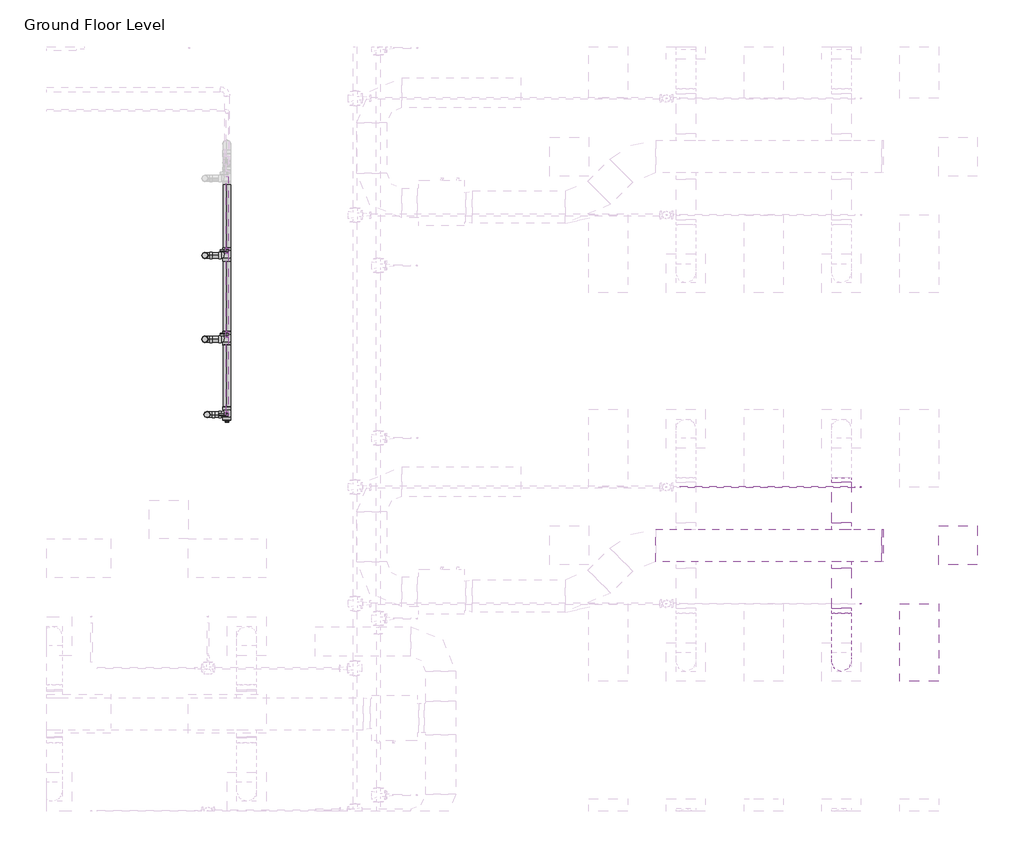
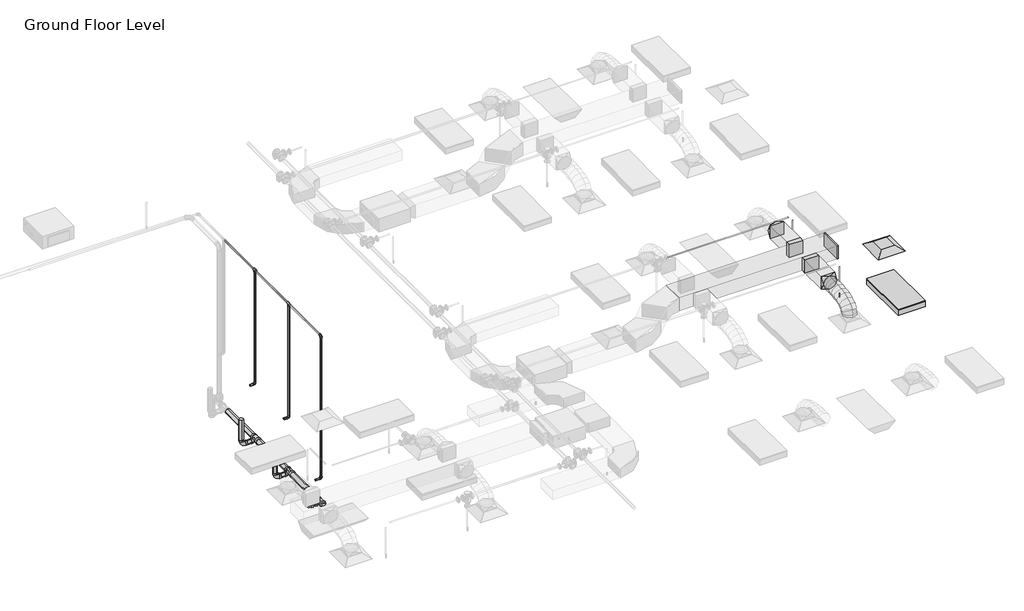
# One storey, part 59 of 66: 21 pipe segments, 13 pipe fittings, 5 duct fittings, 4 duct segments, 2 fire suppression terminals, 1 air terminal, 1 light fixture.
"""IFC4 building model written with IfcOpenShell, lengths in millimetres."""

from ifc_helpers import new_model, si_unit, point, frame, frame_2d, origin, place, context, project, spatial, polyline, circle_curve, ellipse_curve, trimmed, segment, composite_curve, outline, extrude, transform, mapped, element, save
from ifc_brep_helpers import plane_surface, cylinder_surface, advanced_brep
from components import m_return_diffuser_600_x_600_face_300_x_300_connection_ff221211, m_rectangular_endcap_standard_72d4d00d, m_rectangular_takeoff_standard_cb0ccb98, m_rectangular_takeoff_standard_2be5eba1, m_rectangular_to_round_transition_angle_45_degree_641efff0, m_sprinkler_dry_pendent_hosted_15_mm_dry_pendent_9bda8e11, m_troffer_light_parabolic_rectangular1_0600x1200mm_4_lamp_86473d4a, m_bend_pvc_sch_40_dwv_standard_a4b99d37, m_plug_pvc_sch_40_dwv_standard_6c40de1c, m_tee_reducing_sanitary_pvc_sch_40_dwv_standard_b49161a9, standard_517a5a8d, standard_72b35c3b, standard_bfa7e4ca

model = new_model("IFC4")

# Units and contexts
model_context = context("Model", 3, world=origin())
ifc_project = project(units=[si_unit("LENGTHUNIT", "METRE", prefix="MILLI")], contexts=[model_context])

# Site, building, storey
site = spatial("IfcSite", under=ifc_project)
building = spatial("IfcBuilding", under=site)
storey = spatial("IfcBuildingStorey", under=building, Name="Ground Floor Level", Elevation=900.0)

# Air terminal
placement = place(None, origin())
m_return_diffuser_600_x_600_face_300_x_300_connection_shape = m_return_diffuser_600_x_600_face_300_x_300_connection_ff221211(model_context)
element("IfcAirTerminal", 1, ObjectType="M_Return Diffuser : 600 x 600 Face 300 x 300 Connection", at=placement, inside=storey, context=model_context, shape_type="MappedRepresentation", body=[
    mapped(m_return_diffuser_600_x_600_face_300_x_300_connection_shape, transform((14942.7672395, 6735.2153534, 3650.0), x_axis=(1.0, 0.0, 0.0), y_axis=(0.0, 1.0, 0.0), z_axis=(0.0, 0.0, 1.0))),
])

# Duct fittings
m_rectangular_endcap_standard_shape = m_rectangular_endcap_standard_72d4d00d(model_context)
element("IfcDuctFitting", 2, ObjectType="M_Rectangular Endcap : Standard", at=placement, inside=storey, context=model_context, shape_type="MappedRepresentation", body=[
    mapped(m_rectangular_endcap_standard_shape, transform((13766.7301365, 6735.2153534, 4100.0), x_axis=(1.0, 0.0, 0.0), y_axis=(0.0, 1.0, 0.0), z_axis=(0.0, 0.0, 1.0))),
])
m_rectangular_takeoff_standard_shape = m_rectangular_takeoff_standard_cb0ccb98(model_context)
element("IfcDuctFitting", 3, ObjectType="M_Rectangular Takeoff : Standard", at=placement, inside=storey, context=model_context, shape_type="MappedRepresentation", body=[
    mapped(m_rectangular_takeoff_standard_shape, transform((13142.7672395, 6985.2153534, 4100.0), x_axis=(0.0, 1.0, 0.0), y_axis=(1.0, 0.0, 0.0), z_axis=(0.0, 0.0, -1.0))),
])
m_rectangular_takeoff_standard_2_shape = m_rectangular_takeoff_standard_2be5eba1(model_context)
element("IfcDuctFitting", 4, ObjectType="M_Rectangular Takeoff : Standard", at=placement, inside=storey, context=model_context, shape_type="MappedRepresentation", body=[
    mapped(m_rectangular_takeoff_standard_2_shape, transform((13142.7672395, 6485.2153534, 4100.0), x_axis=(0.0, -1.0, 0.0), y_axis=(-1.0, 0.0, 0.0), z_axis=(0.0, 0.0, -1.0))),
])
m_rectangular_to_round_transition_angle_45_degree_shape = m_rectangular_to_round_transition_angle_45_degree_641efff0(model_context)
element("IfcDuctFitting", 5, ObjectType="M_Rectangular to Round Transition - Angle : 45 Degree", at=placement, inside=storey, context=model_context, shape_type="MappedRepresentation", body=[
    mapped(m_rectangular_to_round_transition_angle_45_degree_shape, transform((13142.7672395, 5762.5512847, 4100.0), x_axis=(0.0, -1.0, 0.0), y_axis=(1.0, 0.0, 0.0), z_axis=(0.0, 0.0, 1.0))),
])
element("IfcDuctFitting", 6, ObjectType="M_Rectangular to Round Transition - Angle : 45 Degree", at=placement, inside=storey, context=model_context, shape_type="MappedRepresentation", body=[
    mapped(m_rectangular_to_round_transition_angle_45_degree_shape, transform((13142.7672395, 7707.8794221, 4100.0), x_axis=(0.0, 1.0, 0.0), y_axis=(-1.0, 0.0, 0.0), z_axis=(0.0, 0.0, 1.0))),
])

# Duct segments
element("IfcDuctSegment", 7, ObjectType="Flex - Round", at=placement, inside=storey, context=model_context, shape_type="AdvancedBrep", body=[
    advanced_brep(
    [(13292.7672395, 4935.2153534, 3826.6), (13142.7672395, 4785.2153534, 3826.6), (12992.7672395, 4935.2153534, 3826.6), (13142.7672395, 5085.2153534, 3826.6), (13292.7672395, 4935.2153534, 3857.9377114), (13142.7672395, 4785.2153534, 3883.5809337), (12992.7672395, 4935.2153534, 3857.9377114), (13142.7672395, 5085.2153534, 3832.2944892), (13292.7672395, 4952.2312859, 3906.2505728), (13142.7672395, 4818.493307, 3978.0660967), (12992.7672395, 4952.2312859, 3906.2505728), (13142.7672395, 5085.9692649, 3834.435049), (13292.7672395, 4999.4151663, 3968.7113131), (13142.7672395, 4895.209267, 4079.6206026), (12992.7672395, 4999.4151663, 3968.7113131), (13142.7672395, 5103.6210655, 3857.8020236), (13292.7672395, 5070.9711184, 4016.0700639), (13142.7672395, 5002.0370628, 4150.3237489), (12992.7672395, 5070.9711184, 4016.0700639), (13142.7672395, 5139.9051741, 3881.8163788), (13292.7672395, 5161.1032664, 4050.4146682), (13142.7672395, 5117.5425033, 4194.3367758), (12992.7672395, 5161.1032664, 4050.4146682), (13142.7672395, 5204.6640296, 3906.4925606), (13292.7672395, 5264.0157343, 4073.8329691), (13142.7672395, 5237.4548103, 4221.6234841), (12992.7672395, 5264.0157343, 4073.8329691), (13142.7672395, 5290.5766583, 3926.0424542), (13292.7672395, 5373.912646, 4088.4128097), (13142.7672395, 5358.7617437, 4237.7170733), (12992.7672395, 5373.912646, 4088.4128097), (13142.7672395, 5389.0635483, 3939.1085462), (13292.7672395, 5484.9981256, 4096.242033), (13142.7672395, 5477.4927974, 4246.085151), (12992.7672395, 5484.9981256, 4096.242033), (13142.7672395, 5492.5034538, 3946.398915), (13292.7672395, 5591.4762972, 4099.4084821), (13142.7672395, 5588.7848041, 4249.394754), (12992.7672395, 5591.4762972, 4099.4084821), (13142.7672395, 5594.1677903, 3949.4222102), (13292.7672395, 5687.5512847, 4100.0), (13142.7672395, 5688.4747925, 3950.0028429), (12992.7672395, 5687.5512847, 4100.0), (13142.7672395, 5686.6277768, 4249.9971571)],
    [
        (0, 1, circle_curve(frame((13142.7672395, 4935.2153534, 3826.6), z_axis=(0.0, 0.0, -1.0), x_axis=(1.0, 0.0, 0.0)), 150.0)),
        (1, 2, circle_curve(frame((13142.7672395, 4935.2153534, 3826.6), z_axis=(0.0, 0.0, -1.0), x_axis=(1.0, 0.0, 0.0)), 150.0)),
        (2, 3, circle_curve(frame((13142.7672395, 4935.2153534, 3826.6), z_axis=(0.0, 0.0, -1.0), x_axis=(1.0, 0.0, 0.0)), 150.0)),
        (3, 0, circle_curve(frame((13142.7672395, 4935.2153534, 3826.6), z_axis=(0.0, 0.0, -1.0), x_axis=(1.0, 0.0, 0.0)), 150.0)),
        (0, 4),
        (4, 5, ellipse_curve(frame((13142.7672395, 4935.2153534, 3857.9377114), z_axis=(0.0, -0.16851014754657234, -0.9856999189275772), x_axis=(0.0, 0.9856999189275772, -0.1685101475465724)), 152.176131, 150.0)),
        (5, 1),
        (5, 6, ellipse_curve(frame((13142.7672395, 4935.2153534, 3857.9377114), z_axis=(0.0, -0.16851014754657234, -0.9856999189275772), x_axis=(0.0, 0.9856999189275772, -0.1685101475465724)), 152.176131, 150.0)),
        (6, 2),
        (6, 7, ellipse_curve(frame((13142.7672395, 4935.2153534, 3857.9377114), z_axis=(0.0, -0.16851014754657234, -0.9856999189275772), x_axis=(0.0, 0.9856999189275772, -0.1685101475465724)), 152.176131, 150.0)),
        (7, 3),
        (7, 4, ellipse_curve(frame((13142.7672395, 4935.2153534, 3857.9377114), z_axis=(0.0, -0.16851014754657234, -0.9856999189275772), x_axis=(0.0, 0.9856999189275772, -0.1685101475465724)), 152.176131, 150.0)),
        (4, 8),
        (8, 9, ellipse_curve(frame((13142.7672395, 4952.2312859, 3906.2505728), z_axis=(0.0, -0.4730922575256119, -0.8810128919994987), x_axis=(0.0, 0.8810128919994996, -0.47309225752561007)), 151.8002519, 150.0)),
        (9, 5),
        (9, 10, ellipse_curve(frame((13142.7672395, 4952.2312859, 3906.2505728), z_axis=(0.0, -0.4730922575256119, -0.8810128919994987), x_axis=(0.0, 0.8810128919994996, -0.47309225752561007)), 151.8002519, 150.0)),
        (10, 6),
        (10, 11, ellipse_curve(frame((13142.7672395, 4952.2312859, 3906.2505728), z_axis=(0.0, -0.4730922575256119, -0.8810128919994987), x_axis=(0.0, 0.8810128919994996, -0.47309225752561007)), 151.8002519, 150.0)),
        (11, 7),
        (11, 8, ellipse_curve(frame((13142.7672395, 4952.2312859, 3906.2505728), z_axis=(0.0, -0.4730922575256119, -0.8810128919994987), x_axis=(0.0, 0.8810128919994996, -0.47309225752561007)), 151.8002519, 150.0)),
        (8, 12),
        (12, 13, ellipse_curve(frame((13142.7672395, 4999.4151663, 3968.7113131), z_axis=(0.0, -0.7287877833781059, -0.6847396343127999), x_axis=(0.0, 0.6847396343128, -0.7287877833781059)), 152.1832446, 150.0)),
        (13, 9),
        (13, 14, ellipse_curve(frame((13142.7672395, 4999.4151663, 3968.7113131), z_axis=(0.0, -0.7287877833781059, -0.6847396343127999), x_axis=(0.0, 0.6847396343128, -0.7287877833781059)), 152.1832446, 150.0)),
        (14, 10),
        (14, 15, ellipse_curve(frame((13142.7672395, 4999.4151663, 3968.7113131), z_axis=(0.0, -0.7287877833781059, -0.6847396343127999), x_axis=(0.0, 0.6847396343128, -0.7287877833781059)), 152.1832446, 150.0)),
        (15, 11),
        (15, 12, ellipse_curve(frame((13142.7672395, 4999.4151663, 3968.7113131), z_axis=(0.0, -0.7287877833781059, -0.6847396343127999), x_axis=(0.0, 0.6847396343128, -0.7287877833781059)), 152.1832446, 150.0)),
        (12, 16),
        (16, 17, ellipse_curve(frame((13142.7672395, 5070.9711184, 4016.0700639), z_axis=(0.0, -0.8895859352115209, -0.4567678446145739), x_axis=(0.0, 0.4567678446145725, -0.8895859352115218)), 150.91705, 150.0)),
        (17, 13),
        (17, 18, ellipse_curve(frame((13142.7672395, 5070.9711184, 4016.0700639), z_axis=(0.0, -0.8895859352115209, -0.4567678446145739), x_axis=(0.0, 0.4567678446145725, -0.8895859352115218)), 150.91705, 150.0)),
        (18, 14),
        (18, 19, ellipse_curve(frame((13142.7672395, 5070.9711184, 4016.0700639), z_axis=(0.0, -0.8895859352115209, -0.4567678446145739), x_axis=(0.0, 0.4567678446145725, -0.8895859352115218)), 150.91705, 150.0)),
        (19, 15),
        (19, 16, ellipse_curve(frame((13142.7672395, 5070.9711184, 4016.0700639), z_axis=(0.0, -0.8895859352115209, -0.4567678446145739), x_axis=(0.0, 0.4567678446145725, -0.8895859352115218)), 150.91705, 150.0)),
        (16, 20),
        (20, 21, ellipse_curve(frame((13142.7672395, 5161.1032664, 4050.4146682), z_axis=(0.0, -0.9571203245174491, -0.28969067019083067), x_axis=(0.0, 0.28969067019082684, -0.9571203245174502)), 150.369921, 150.0)),
        (21, 17),
        (21, 22, ellipse_curve(frame((13142.7672395, 5161.1032664, 4050.4146682), z_axis=(0.0, -0.9571203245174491, -0.28969067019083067), x_axis=(0.0, 0.28969067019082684, -0.9571203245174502)), 150.369921, 150.0)),
        (22, 18),
        (22, 23, ellipse_curve(frame((13142.7672395, 5161.1032664, 4050.4146682), z_axis=(0.0, -0.9571203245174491, -0.28969067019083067), x_axis=(0.0, 0.28969067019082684, -0.9571203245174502)), 150.369921, 150.0)),
        (23, 19),
        (23, 20, ellipse_curve(frame((13142.7672395, 5161.1032664, 4050.4146682), z_axis=(0.0, -0.9571203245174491, -0.28969067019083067), x_axis=(0.0, 0.28969067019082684, -0.9571203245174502)), 150.369921, 150.0)),
        (20, 24),
        (24, 25, ellipse_curve(frame((13142.7672395, 5264.0157343, 4073.8329691), z_axis=(0.0, -0.9842313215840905, -0.17688613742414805), x_axis=(0.0, 0.17688613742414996, -0.9842313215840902)), 150.1583131, 150.0)),
        (25, 21),
        (25, 26, ellipse_curve(frame((13142.7672395, 5264.0157343, 4073.8329691), z_axis=(0.0, -0.9842313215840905, -0.17688613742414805), x_axis=(0.0, 0.17688613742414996, -0.9842313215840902)), 150.1583131, 150.0)),
        (26, 22),
        (26, 27, ellipse_curve(frame((13142.7672395, 5264.0157343, 4073.8329691), z_axis=(0.0, -0.9842313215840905, -0.17688613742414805), x_axis=(0.0, 0.17688613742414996, -0.9842313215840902)), 150.1583131, 150.0)),
        (27, 23),
        (27, 24, ellipse_curve(frame((13142.7672395, 5264.0157343, 4073.8329691), z_axis=(0.0, -0.9842313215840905, -0.17688613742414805), x_axis=(0.0, 0.17688613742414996, -0.9842313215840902)), 150.1583131, 150.0)),
        (24, 28),
        (28, 29, ellipse_curve(frame((13142.7672395, 5373.912646, 4088.4128097), z_axis=(0.0, -0.9948906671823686, -0.10095821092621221), x_axis=(0.0, 0.10095821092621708, -0.9948906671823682)), 150.0710264, 150.0)),
        (29, 25),
        (29, 30, ellipse_curve(frame((13142.7672395, 5373.912646, 4088.4128097), z_axis=(0.0, -0.9948906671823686, -0.10095821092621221), x_axis=(0.0, 0.10095821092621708, -0.9948906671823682)), 150.0710264, 150.0)),
        (30, 26),
        (30, 31, ellipse_curve(frame((13142.7672395, 5373.912646, 4088.4128097), z_axis=(0.0, -0.9948906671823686, -0.10095821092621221), x_axis=(0.0, 0.10095821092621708, -0.9948906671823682)), 150.0710264, 150.0)),
        (31, 27),
        (31, 28, ellipse_curve(frame((13142.7672395, 5373.912646, 4088.4128097), z_axis=(0.0, -0.9948906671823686, -0.10095821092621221), x_axis=(0.0, 0.10095821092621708, -0.9948906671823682)), 150.0710264, 150.0)),
        (28, 32),
        (32, 33, ellipse_curve(frame((13142.7672395, 5484.9981256, 4096.242033), z_axis=(0.0, -0.9987479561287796, -0.05002519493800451), x_axis=(0.0, 0.050025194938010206, -0.9987479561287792)), 150.0309634, 150.0)),
        (33, 29),
        (33, 34, ellipse_curve(frame((13142.7672395, 5484.9981256, 4096.242033), z_axis=(0.0, -0.9987479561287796, -0.05002519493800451), x_axis=(0.0, 0.050025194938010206, -0.9987479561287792)), 150.0309634, 150.0)),
        (34, 30),
        (34, 35, ellipse_curve(frame((13142.7672395, 5484.9981256, 4096.242033), z_axis=(0.0, -0.9987479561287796, -0.05002519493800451), x_axis=(0.0, 0.050025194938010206, -0.9987479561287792)), 150.0309634, 150.0)),
        (35, 31),
        (35, 32, ellipse_curve(frame((13142.7672395, 5484.9981256, 4096.242033), z_axis=(0.0, -0.9987479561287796, -0.05002519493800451), x_axis=(0.0, 0.050025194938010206, -0.9987479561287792)), 150.0309634, 150.0)),
        (32, 36),
        (36, 37, ellipse_curve(frame((13142.7672395, 5591.4762972, 4099.4084821), z_axis=(0.0, -0.9998390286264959, -0.017942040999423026), x_axis=(0.0, 0.01794204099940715, -0.9998390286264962)), 150.0104193, 150.0)),
        (37, 33),
        (37, 38, ellipse_curve(frame((13142.7672395, 5591.4762972, 4099.4084821), z_axis=(0.0, -0.9998390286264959, -0.017942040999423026), x_axis=(0.0, 0.01794204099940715, -0.9998390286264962)), 150.0104193, 150.0)),
        (38, 34),
        (38, 39, ellipse_curve(frame((13142.7672395, 5591.4762972, 4099.4084821), z_axis=(0.0, -0.9998390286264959, -0.017942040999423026), x_axis=(0.0, 0.01794204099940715, -0.9998390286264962)), 150.0104193, 150.0)),
        (39, 35),
        (39, 36, ellipse_curve(frame((13142.7672395, 5591.4762972, 4099.4084821), z_axis=(0.0, -0.9998390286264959, -0.017942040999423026), x_axis=(0.0, 0.01794204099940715, -0.9998390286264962)), 150.0104193, 150.0)),
        (40, 41, circle_curve(frame((13142.7672395, 5687.5512847, 4100.0), z_axis=(0.0, 0.9999810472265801, 0.006156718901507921), x_axis=(1.0, 0.0, 0.0)), 150.0)),
        (41, 42, circle_curve(frame((13142.7672395, 5687.5512847, 4100.0), z_axis=(0.0, 0.9999810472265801, 0.006156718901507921), x_axis=(1.0, 0.0, 0.0)), 150.0)),
        (42, 43, circle_curve(frame((13142.7672395, 5687.5512847, 4100.0), z_axis=(0.0, 0.9999810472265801, 0.006156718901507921), x_axis=(1.0, 0.0, 0.0)), 150.0)),
        (43, 40, circle_curve(frame((13142.7672395, 5687.5512847, 4100.0), z_axis=(0.0, 0.9999810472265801, 0.006156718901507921), x_axis=(1.0, 0.0, 0.0)), 150.0)),
        (36, 40),
        (43, 37),
        (42, 38),
        (41, 39),
    ],
    [
        plane_surface(frame((13142.7672395, 4785.2153534, 3826.6), z_axis=(0.0, 0.0, -1.0), x_axis=(1.0, 0.0, 0.0))),
        cylinder_surface(frame((13142.7672395, 4935.2153534, 3826.6), z_axis=(0.0, 0.0, -1.0), x_axis=(1.0, 0.0, 0.0)), 150.0),
        cylinder_surface(frame((13142.7672395, 4935.2153534, 3857.9377114), z_axis=(0.0, -0.3322008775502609, -0.9432086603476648), x_axis=(1.0, 0.0, 0.0)), 150.0),
        cylinder_surface(frame((13142.7672395, 4952.2312859, 3906.2505728), z_axis=(0.0, -0.6027625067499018, -0.7979206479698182), x_axis=(1.0, 0.0, 0.0)), 150.0),
        cylinder_surface(frame((13142.7672395, 4999.4151663, 3968.7113131), z_axis=(0.0, -0.8339024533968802, -0.5519118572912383), x_axis=(1.0, 0.0, 0.0)), 150.0),
        cylinder_surface(frame((13142.7672395, 5070.9711184, 4016.0700639), z_axis=(0.0, -0.934458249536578, -0.35607271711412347), x_axis=(1.0, 0.0, 0.0)), 150.0),
        cylinder_surface(frame((13142.7672395, 5161.1032664, 4050.4146682), z_axis=(0.0, -0.9750732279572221, -0.22188330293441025), x_axis=(1.0, 0.0, 0.0)), 150.0),
        cylinder_surface(frame((13142.7672395, 5264.0157343, 4073.8329691), z_axis=(0.0, -0.9913140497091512, -0.1315159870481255), x_axis=(1.0, 0.0, 0.0)), 150.0),
        cylinder_surface(frame((13142.7672395, 5373.912646, 4088.4128097), z_axis=(0.0, -0.9975255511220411, -0.07030487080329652), x_axis=(1.0, 0.0, 0.0)), 150.0),
        cylinder_surface(frame((13142.7672395, 5484.9981256, 4096.242033), z_axis=(0.0, -0.9995581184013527, -0.02972487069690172), x_axis=(1.0, 0.0, 0.0)), 150.0),
        plane_surface(frame((13142.7672395, 5686.6277768, 4249.9971571), z_axis=(0.0, 0.9999810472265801, 0.0061567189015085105), x_axis=(1.0, 0.0, 0.0))),
        cylinder_surface(frame((13142.7672395, 5591.4762972, 4099.4084821), z_axis=(0.0, -0.9999810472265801, -0.006156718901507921), x_axis=(1.0, 0.0, 0.0)), 150.0),
    ],
    [
        (0, [[1, 2, 3, 4]]),
        (1, [[-1, 5, 6, 7]]),
        (1, [[-2, -7, 8, 9]]),
        (1, [[-3, -9, 10, 11]]),
        (1, [[-4, -11, 12, -5]]),
        (2, [[-6, 13, 14, 15]]),
        (2, [[-8, -15, 16, 17]]),
        (2, [[-10, -17, 18, 19]]),
        (2, [[-12, -19, 20, -13]]),
        (3, [[-14, 21, 22, 23]]),
        (3, [[-16, -23, 24, 25]]),
        (3, [[-18, -25, 26, 27]]),
        (3, [[-20, -27, 28, -21]]),
        (4, [[-22, 29, 30, 31]]),
        (4, [[-24, -31, 32, 33]]),
        (4, [[-26, -33, 34, 35]]),
        (4, [[-28, -35, 36, -29]]),
        (5, [[-30, 37, 38, 39]]),
        (5, [[-32, -39, 40, 41]]),
        (5, [[-34, -41, 42, 43]]),
        (5, [[-36, -43, 44, -37]]),
        (6, [[-38, 45, 46, 47]]),
        (6, [[-40, -47, 48, 49]]),
        (6, [[-42, -49, 50, 51]]),
        (6, [[-44, -51, 52, -45]]),
        (7, [[-46, 53, 54, 55]]),
        (7, [[-48, -55, 56, 57]]),
        (7, [[-50, -57, 58, 59]]),
        (7, [[-52, -59, 60, -53]]),
        (8, [[-54, 61, 62, 63]]),
        (8, [[-56, -63, 64, 65]]),
        (8, [[-58, -65, 66, 67]]),
        (8, [[-60, -67, 68, -61]]),
        (9, [[-62, 69, 70, 71]]),
        (9, [[-64, -71, 72, 73]]),
        (9, [[-66, -73, 74, 75]]),
        (9, [[-68, -75, 76, -69]]),
        (10, [[77, 78, 79, 80]]),
        (11, [[-70, 81, -80, 82]]),
        (11, [[-72, -82, -79, 83]]),
        (11, [[-74, -83, -78, 84]]),
        (11, [[-76, -84, -77, -81]]),
    ],
),
])
element("IfcDuctSegment", 8, ObjectType="Radius Elbows / Taps", at=placement, inside=storey, context=model_context, shape_type="SweptSolid", body=[
    extrude(outline(polyline([(10277.3903083, 6485.2153534), (10277.3903083, 6985.2153534), (13766.7301365, 6985.2153534), (13766.7301365, 6485.2153534), (10277.3903083, 6485.2153534)])), frame((0.0, 0.0, 3950.0), z_axis=(0.0, 0.0, 1.0), x_axis=(1.0, 0.0, 0.0)), (0.0, 0.0, 1.0), 300.0),
])
element("IfcDuctSegment", 9, ObjectType="Radius Elbows / Taps", at=placement, inside=storey, context=model_context, shape_type="SweptSolid", body=[
    extrude(outline(polyline([(13292.7672395, 7086.8153534), (12992.7672395, 7086.8153534), (12992.7672395, 7707.8794221), (13292.7672395, 7707.8794221), (13292.7672395, 7086.8153534)])), frame((0.0, 0.0, 3950.0), z_axis=(0.0, 0.0, 1.0), x_axis=(1.0, 0.0, 0.0)), (0.0, 0.0, 1.0), 300.0),
])
element("IfcDuctSegment", 10, ObjectType="Radius Elbows / Taps", at=placement, inside=storey, context=model_context, shape_type="SweptSolid", body=[
    extrude(outline(polyline([(12992.7672395, 6383.6153534), (13292.7672395, 6383.6153534), (13292.7672395, 5762.5512847), (12992.7672395, 5762.5512847), (12992.7672395, 6383.6153534)])), frame((0.0, 0.0, 3950.0), z_axis=(0.0, 0.0, 1.0), x_axis=(1.0, 0.0, 0.0)), (0.0, 0.0, 1.0), 300.0),
])

# Fire suppression terminals
m_sprinkler_dry_pendent_hosted_15_mm_dry_pendent_shape = m_sprinkler_dry_pendent_hosted_15_mm_dry_pendent_9bda8e11(model_context)
element("IfcFireSuppressionTerminal", 11, ObjectType="M_Sprinkler - Dry - Pendent - Hosted : 15 mm Dry Pendent", at=placement, inside=storey, context=model_context, shape_type="MappedRepresentation", body=[
    mapped(m_sprinkler_dry_pendent_hosted_15_mm_dry_pendent_shape, transform((13442.7672395, 7635.2153534, 3650.0), x_axis=(1.0, 0.0, 0.0), y_axis=(0.0, -1.0, 0.0), z_axis=(0.0, 0.0, -1.0))),
])
element("IfcFireSuppressionTerminal", 12, ObjectType="M_Sprinkler - Dry - Pendent - Hosted : 15 mm Dry Pendent", at=placement, inside=storey, context=model_context, shape_type="MappedRepresentation", body=[
    mapped(m_sprinkler_dry_pendent_hosted_15_mm_dry_pendent_shape, transform((13442.7672395, 5835.2153534, 3650.0), x_axis=(1.0, 0.0, 0.0), y_axis=(0.0, -1.0, 0.0), z_axis=(0.0, 0.0, -1.0))),
])

# Light fixture
m_troffer_light_parabolic_rectangular1_0600x1200mm_4_lamp_shape = m_troffer_light_parabolic_rectangular1_0600x1200mm_4_lamp_86473d4a(model_context)
element("IfcLightFixture", 13, ObjectType="M_Troffer Light - Parabolic Rectangular1 : 0600x1200mm(4 Lamp) - 277V 2", at=placement, inside=storey, context=model_context, shape_type="MappedRepresentation", body=[
    mapped(m_troffer_light_parabolic_rectangular1_0600x1200mm_4_lamp_shape, transform((14283.3013074, 5253.9188549, 3650.0), x_axis=(0.0, 1.0, 0.0), y_axis=(-1.0, 0.0, 0.0), z_axis=(0.0, 0.0, 1.0))),
])

# Pipe fittings
m_bend_pvc_sch_40_dwv_standard_shape = m_bend_pvc_sch_40_dwv_standard_a4b99d37(model_context)
element("IfcPipeFitting", 14, ObjectType="M_Bend - PVC - Sch 40 - DWV : Standard", at=placement, inside=storey, context=model_context, shape_type="MappedRepresentation", body=[
    mapped(m_bend_pvc_sch_40_dwv_standard_shape, transform((3351.3697667, 8754.4159333, 426.6255336), x_axis=(0.0, 0.0, -1.0), y_axis=(1.0, 0.0, 0.0), z_axis=(0.0, -1.0, 0.0))),
])
element("IfcPipeFitting", 15, ObjectType="M_Bend - PVC - Sch 40 - DWV : Standard", at=placement, inside=storey, context=model_context, shape_type="MappedRepresentation", body=[
    mapped(m_bend_pvc_sch_40_dwv_standard_shape, transform((3319.2245422, 9917.654001, 414.9931529), x_axis=(0.0, 0.0, -1.0), y_axis=(1.0, 0.0, 0.0), z_axis=(0.0, -1.0, 0.0))),
])
element("IfcPipeFitting", 16, ObjectType="M_Bend - PVC - Sch 40 - DWV : Standard", at=placement, inside=storey, context=model_context, shape_type="MappedRepresentation", body=[
    mapped(m_bend_pvc_sch_40_dwv_standard_shape, transform((3319.2245422, 11211.6258776, 402.0534342), x_axis=(0.0, 0.0, -1.0), y_axis=(1.0, 0.0, 0.0), z_axis=(0.0, -1.0, 0.0))),
])
m_plug_pvc_sch_40_dwv_standard_shape = m_plug_pvc_sch_40_dwv_standard_6c40de1c(model_context)
element("IfcPipeFitting", 17, ObjectType="M_Plug - PVC - Sch 40 - DWV : Standard", at=placement, inside=storey, context=model_context, shape_type="MappedRepresentation", body=[
    mapped(m_plug_pvc_sch_40_dwv_standard_shape, transform((3657.4922763, 8665.519878, 427.4644942), x_axis=(0.0, -0.9999500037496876, 0.009999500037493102), y_axis=(1.0, 0.0, 0.0), z_axis=(0.0, 0.009999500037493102, 0.9999500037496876))),
])
m_tee_reducing_sanitary_pvc_sch_40_dwv_standard_shape = m_tee_reducing_sanitary_pvc_sch_40_dwv_standard_b49161a9(model_context)
element("IfcPipeFitting", 18, ObjectType="M_Tee Reducing Sanitary - PVC - Sch 40 - DWV : Standard", at=placement, inside=storey, context=model_context, shape_type="MappedRepresentation", body=[
    mapped(m_tee_reducing_sanitary_pvc_sch_40_dwv_standard_shape, transform((3657.4922763, 8754.4154334, 426.5755386), x_axis=(0.0, -0.9999500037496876, 0.009999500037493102), y_axis=(1.0, 0.0, 0.0), z_axis=(0.0, 0.009999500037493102, 0.9999500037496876))),
])
element("IfcPipeFitting", 19, ObjectType="M_Tee Reducing Sanitary - PVC - Sch 40 - DWV : Standard", at=placement, inside=storey, context=model_context, shape_type="MappedRepresentation", body=[
    mapped(m_tee_reducing_sanitary_pvc_sch_40_dwv_standard_shape, transform((3657.4922763, 9917.6535011, 414.9431579), x_axis=(0.0, -0.9999500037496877, 0.009999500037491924), y_axis=(1.0000000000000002, 0.0, 0.0), z_axis=(0.0, 0.009999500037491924, 0.9999500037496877))),
])
element("IfcPipeFitting", 20, ObjectType="M_Tee Reducing Sanitary - PVC - Sch 40 - DWV : Standard", at=placement, inside=storey, context=model_context, shape_type="MappedRepresentation", body=[
    mapped(m_tee_reducing_sanitary_pvc_sch_40_dwv_standard_shape, transform((3657.4922763, 11211.6253777, 402.0034392), x_axis=(0.0, -0.9999500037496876, 0.00999950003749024), y_axis=(1.0, 0.0, 0.0), z_axis=(0.0, 0.00999950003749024, 0.9999500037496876))),
])
standard_shape = standard_517a5a8d(model_context)
element("IfcPipeFitting", 21, ObjectType="M_Elbow - CPVC - Sch 40 : Standard", at=placement, inside=storey, context=model_context, shape_type="MappedRepresentation", body=[
    mapped(standard_shape, transform((3662.4674395, 8754.4154334, 4315.0), x_axis=(0.0, -1.0, 0.0), y_axis=(0.0, 0.0, -1.0), z_axis=(1.0, 0.0, 0.0))),
])
element("IfcPipeFitting", 22, ObjectType="M_Elbow - CPVC - Sch 40 : Standard", at=placement, inside=storey, context=model_context, shape_type="MappedRepresentation", body=[
    mapped(standard_shape, transform((3662.4674395, 9991.0922673, 1655.0), x_axis=(0.0, 0.0, -1.0), y_axis=(-1.0, 0.0, 0.0), z_axis=(0.0, 1.0, 0.0))),
])
element("IfcPipeFitting", 23, ObjectType="M_Elbow - CPVC - Sch 40 : Standard", at=placement, inside=storey, context=model_context, shape_type="MappedRepresentation", body=[
    mapped(standard_shape, transform((3662.4674395, 11285.0641439, 1655.0), x_axis=(0.0, 0.0, -1.0), y_axis=(-1.0, 0.0, 0.0), z_axis=(0.0, 1.0, 0.0))),
])
standard_2_shape = standard_72b35c3b(model_context)
element("IfcPipeFitting", 24, ObjectType="M_Tee - CPVC - Sch 40 : Standard", at=placement, inside=storey, context=model_context, shape_type="MappedRepresentation", body=[
    mapped(standard_2_shape, transform((3662.4674395, 9991.0922673, 4315.0), x_axis=(0.0, -1.0, 0.0), y_axis=(0.0, 0.0, 1.0), z_axis=(-1.0, 0.0, 0.0))),
])
element("IfcPipeFitting", 25, ObjectType="M_Tee - CPVC - Sch 40 : Standard", at=placement, inside=storey, context=model_context, shape_type="MappedRepresentation", body=[
    mapped(standard_2_shape, transform((3662.4674395, 11285.0641439, 4315.0), x_axis=(0.0, -1.0, 0.0), y_axis=(0.0, 0.0, 1.0), z_axis=(-1.0, 0.0, 0.0))),
])
standard_3_shape = standard_bfa7e4ca(model_context)
element("IfcPipeFitting", 26, ObjectType="M_Elbow - CPVC - Sch 40 : Standard", at=placement, inside=storey, context=model_context, shape_type="MappedRepresentation", body=[
    mapped(standard_3_shape, transform((3662.4674395, 8754.4154334, 983.5), x_axis=(0.0, 0.0, -1.0), y_axis=(-1.0, 0.0, 0.0), z_axis=(0.0, 1.0, 0.0))),
])

# Pipe segments
element("IfcPipeSegment", 27, ObjectType="CPVC", at=placement, inside=storey, context=model_context, shape_type="SweptSolid", body=[
    extrude(outline(composite_curve([segment(trimmed(circle_curve(frame_2d((8754.4154334, 983.4999927)), 16.7005), [point((8771.1159334, 983.4999927))], [point((8754.4154334, 966.7994927))], False, "CARTESIAN"), True, "CONTINUOUS"), segment(trimmed(circle_curve(frame_2d((8754.4154334, 983.4999927)), 16.7005), [point((8754.4154334, 966.7994927))], [point((8737.7149334, 983.4999927))], False, "CARTESIAN"), True, "CONTINUOUS"), segment(trimmed(circle_curve(frame_2d((8754.4154334, 983.4999927)), 16.7005), [point((8737.7149334, 983.4999927))], [point((8754.4154334, 1000.2004927))], False, "CARTESIAN"), True, "CONTINUOUS"), segment(trimmed(circle_curve(frame_2d((8754.4154334, 983.4999927)), 16.7005), [point((8754.4154334, 1000.2004927))], [point((8771.1159334, 983.4999927))], False, "CARTESIAN"), True, "CONTINUOUS")], self_intersect=False)), frame((3537.5384422, 0.0, 0.0), z_axis=(1.0, 0.0, 0.0), x_axis=(0.0, 1.0, 0.0)), (0.0, 0.0, 1.0), 81.6664508),
])
element("IfcPipeSegment", 28, ObjectType="CPVC", at=placement, inside=storey, context=model_context, shape_type="SweptSolid", body=[
    extrude(outline(composite_curve([segment(trimmed(circle_curve(frame_2d((3662.4674395, 8754.4154334)), 16.7005), [point((3679.1679395, 8754.4154334))], [point((3662.4674395, 8737.7149334))], False, "CARTESIAN"), True, "CONTINUOUS"), segment(trimmed(circle_curve(frame_2d((3662.4674395, 8754.4154334)), 16.7005), [point((3662.4674395, 8737.7149334))], [point((3645.7669395, 8754.4154334))], False, "CARTESIAN"), True, "CONTINUOUS"), segment(trimmed(circle_curve(frame_2d((3662.4674395, 8754.4154334)), 16.7005), [point((3645.7669395, 8754.4154334))], [point((3662.4674395, 8771.1159334))], False, "CARTESIAN"), True, "CONTINUOUS"), segment(trimmed(circle_curve(frame_2d((3662.4674395, 8754.4154334)), 16.7005), [point((3662.4674395, 8771.1159334))], [point((3679.1679395, 8754.4154334))], False, "CARTESIAN"), True, "CONTINUOUS")], self_intersect=False)), frame((0.0, 0.0, 1026.7625464), z_axis=(0.0, 0.0, 1.0), x_axis=(1.0, 0.0, 0.0)), (0.0, 0.0, 1.0), 3244.9749036),
])
element("IfcPipeSegment", 29, ObjectType="CPVC", at=placement, inside=storey, context=model_context, shape_type="SweptSolid", body=[
    extrude(outline(composite_curve([segment(trimmed(circle_curve(frame_2d((4315.0, 3662.4674395)), 16.7005), [point((4315.0, 3645.7669395))], [point((4298.2995, 3662.4674395))], False, "CARTESIAN"), True, "CONTINUOUS"), segment(trimmed(circle_curve(frame_2d((4315.0, 3662.4674395)), 16.7005), [point((4298.2995, 3662.4674395))], [point((4315.0, 3679.1679395))], False, "CARTESIAN"), True, "CONTINUOUS"), segment(trimmed(circle_curve(frame_2d((4315.0, 3662.4674395)), 16.7005), [point((4315.0, 3679.1679395))], [point((4331.7005, 3662.4674395))], False, "CARTESIAN"), True, "CONTINUOUS"), segment(trimmed(circle_curve(frame_2d((4315.0, 3662.4674395)), 16.7005), [point((4331.7005, 3662.4674395))], [point((4315.0, 3645.7669395))], False, "CARTESIAN"), True, "CONTINUOUS")], self_intersect=False)), frame((0.0, 8797.6779834, 0.0), z_axis=(0.0, 1.0, 0.0), x_axis=(0.0, 0.0, 1.0)), (0.0, 0.0, 1.0), 1153.7140839),
])
element("IfcPipeSegment", 30, ObjectType="CPVC", at=placement, inside=storey, context=model_context, shape_type="SweptSolid", body=[
    extrude(outline(composite_curve([segment(trimmed(circle_curve(frame_2d((9991.0922673, 1655.0)), 16.7005), [point((10007.7927673, 1655.0))], [point((9991.0922673, 1638.2995))], False, "CARTESIAN"), True, "CONTINUOUS"), segment(trimmed(circle_curve(frame_2d((9991.0922673, 1655.0)), 16.7005), [point((9991.0922673, 1638.2995))], [point((9974.3917673, 1655.0))], False, "CARTESIAN"), True, "CONTINUOUS"), segment(trimmed(circle_curve(frame_2d((9991.0922673, 1655.0)), 16.7005), [point((9974.3917673, 1655.0))], [point((9991.0922673, 1671.7005))], False, "CARTESIAN"), True, "CONTINUOUS"), segment(trimmed(circle_curve(frame_2d((9991.0922673, 1655.0)), 16.7005), [point((9991.0922673, 1671.7005))], [point((10007.7927673, 1655.0))], False, "CARTESIAN"), True, "CONTINUOUS")], self_intersect=False)), frame((3552.7672395, 0.0, 0.0), z_axis=(1.0, 0.0, 0.0), x_axis=(0.0, 1.0, 0.0)), (0.0, 0.0, 1.0), 66.43765),
])
element("IfcPipeSegment", 31, ObjectType="CPVC", at=placement, inside=storey, context=model_context, shape_type="SweptSolid", body=[
    extrude(outline(composite_curve([segment(trimmed(circle_curve(frame_2d((3662.4674395, 9991.0922673)), 16.7005), [point((3679.1679395, 9991.0922673))], [point((3662.4674395, 9974.3917673))], False, "CARTESIAN"), True, "CONTINUOUS"), segment(trimmed(circle_curve(frame_2d((3662.4674395, 9991.0922673)), 16.7005), [point((3662.4674395, 9974.3917673))], [point((3645.7669395, 9991.0922673))], False, "CARTESIAN"), True, "CONTINUOUS"), segment(trimmed(circle_curve(frame_2d((3662.4674395, 9991.0922673)), 16.7005), [point((3645.7669395, 9991.0922673))], [point((3662.4674395, 10007.7927673))], False, "CARTESIAN"), True, "CONTINUOUS"), segment(trimmed(circle_curve(frame_2d((3662.4674395, 9991.0922673)), 16.7005), [point((3662.4674395, 10007.7927673))], [point((3679.1679395, 9991.0922673))], False, "CARTESIAN"), True, "CONTINUOUS")], self_intersect=False)), frame((0.0, 0.0, 1698.26255), z_axis=(0.0, 0.0, 1.0), x_axis=(1.0, 0.0, 0.0)), (0.0, 0.0, 1.0), 2577.03725),
])
element("IfcPipeSegment", 32, ObjectType="CPVC", at=placement, inside=storey, context=model_context, shape_type="SweptSolid", body=[
    extrude(outline(composite_curve([segment(trimmed(circle_curve(frame_2d((4315.0, 3662.4674395)), 16.7005), [point((4315.0, 3645.7669395))], [point((4298.2995, 3662.4674395))], False, "CARTESIAN"), True, "CONTINUOUS"), segment(trimmed(circle_curve(frame_2d((4315.0, 3662.4674395)), 16.7005), [point((4298.2995, 3662.4674395))], [point((4315.0, 3679.1679395))], False, "CARTESIAN"), True, "CONTINUOUS"), segment(trimmed(circle_curve(frame_2d((4315.0, 3662.4674395)), 16.7005), [point((4315.0, 3679.1679395))], [point((4331.7005, 3662.4674395))], False, "CARTESIAN"), True, "CONTINUOUS"), segment(trimmed(circle_curve(frame_2d((4315.0, 3662.4674395)), 16.7005), [point((4331.7005, 3662.4674395))], [point((4315.0, 3645.7669395))], False, "CARTESIAN"), True, "CONTINUOUS")], self_intersect=False)), frame((0.0, 10030.7924673, 0.0), z_axis=(0.0, 1.0, 0.0), x_axis=(0.0, 0.0, 1.0)), (0.0, 0.0, 1.0), 1214.5714766),
])
element("IfcPipeSegment", 33, ObjectType="CPVC", at=placement, inside=storey, context=model_context, shape_type="SweptSolid", body=[
    extrude(outline(composite_curve([segment(trimmed(circle_curve(frame_2d((11285.0641439, 1655.0)), 16.7005), [point((11301.7646439, 1655.0))], [point((11285.0641439, 1638.2995))], False, "CARTESIAN"), True, "CONTINUOUS"), segment(trimmed(circle_curve(frame_2d((11285.0641439, 1655.0)), 16.7005), [point((11285.0641439, 1638.2995))], [point((11268.3636439, 1655.0))], False, "CARTESIAN"), True, "CONTINUOUS"), segment(trimmed(circle_curve(frame_2d((11285.0641439, 1655.0)), 16.7005), [point((11268.3636439, 1655.0))], [point((11285.0641439, 1671.7005))], False, "CARTESIAN"), True, "CONTINUOUS"), segment(trimmed(circle_curve(frame_2d((11285.0641439, 1655.0)), 16.7005), [point((11285.0641439, 1671.7005))], [point((11301.7646439, 1655.0))], False, "CARTESIAN"), True, "CONTINUOUS")], self_intersect=False)), frame((3552.7672395, 0.0, 0.0), z_axis=(1.0, 0.0, 0.0), x_axis=(0.0, 1.0, 0.0)), (0.0, 0.0, 1.0), 66.43765),
])
element("IfcPipeSegment", 34, ObjectType="CPVC", at=placement, inside=storey, context=model_context, shape_type="SweptSolid", body=[
    extrude(outline(composite_curve([segment(trimmed(circle_curve(frame_2d((3662.4674395, 11285.0641439)), 16.7005), [point((3679.1679395, 11285.0641439))], [point((3662.4674395, 11268.3636439))], False, "CARTESIAN"), True, "CONTINUOUS"), segment(trimmed(circle_curve(frame_2d((3662.4674395, 11285.0641439)), 16.7005), [point((3662.4674395, 11268.3636439))], [point((3645.7669395, 11285.0641439))], False, "CARTESIAN"), True, "CONTINUOUS"), segment(trimmed(circle_curve(frame_2d((3662.4674395, 11285.0641439)), 16.7005), [point((3645.7669395, 11285.0641439))], [point((3662.4674395, 11301.7646439))], False, "CARTESIAN"), True, "CONTINUOUS"), segment(trimmed(circle_curve(frame_2d((3662.4674395, 11285.0641439)), 16.7005), [point((3662.4674395, 11301.7646439))], [point((3679.1679395, 11285.0641439))], False, "CARTESIAN"), True, "CONTINUOUS")], self_intersect=False)), frame((0.0, 0.0, 1698.26255), z_axis=(0.0, 0.0, 1.0), x_axis=(1.0, 0.0, 0.0)), (0.0, 0.0, 1.0), 2577.03725),
])
element("IfcPipeSegment", 35, ObjectType="CPVC", at=placement, inside=storey, context=model_context, shape_type="SweptSolid", body=[
    extrude(outline(composite_curve([segment(trimmed(circle_curve(frame_2d((4315.0, 3662.4674395)), 16.7005), [point((4315.0, 3645.7669395))], [point((4298.2995, 3662.4674395))], False, "CARTESIAN"), True, "CONTINUOUS"), segment(trimmed(circle_curve(frame_2d((4315.0, 3662.4674395)), 16.7005), [point((4298.2995, 3662.4674395))], [point((4315.0, 3679.1679395))], False, "CARTESIAN"), True, "CONTINUOUS"), segment(trimmed(circle_curve(frame_2d((4315.0, 3662.4674395)), 16.7005), [point((4315.0, 3679.1679395))], [point((4331.7005, 3662.4674395))], False, "CARTESIAN"), True, "CONTINUOUS"), segment(trimmed(circle_curve(frame_2d((4315.0, 3662.4674395)), 16.7005), [point((4331.7005, 3662.4674395))], [point((4315.0, 3645.7669395))], False, "CARTESIAN"), True, "CONTINUOUS")], self_intersect=False)), frame((0.0, 11324.7643439, 0.0), z_axis=(0.0, 1.0, 0.0), x_axis=(0.0, 0.0, 1.0)), (0.0, 0.0, 1.0), 1110.0122833),
])
element("IfcPipeSegment", 36, ObjectType="PVC - DWV", at=placement, inside=storey, context=model_context, shape_type="SweptSolid", body=[
    extrude(outline(composite_curve([segment(trimmed(circle_curve(frame_2d((0.0, -44.45)), 44.45), [point((-44.45, -44.45))], [point((0.0, 0.0))], False, "CARTESIAN"), True, "CONTINUOUS"), segment(trimmed(circle_curve(frame_2d((0.0, -44.45)), 44.45), [point((0.0, 0.0))], [point((44.45, -44.45))], False, "CARTESIAN"), True, "CONTINUOUS"), segment(trimmed(circle_curve(frame_2d((0.0, -44.45)), 44.45), [point((44.45, -44.45))], [point((0.0, -88.9))], False, "CARTESIAN"), True, "CONTINUOUS"), segment(trimmed(circle_curve(frame_2d((0.0, -44.45)), 44.45), [point((0.0, -88.9))], [point((-44.45, -44.45))], False, "CARTESIAN"), True, "CONTINUOUS")], self_intersect=False)), frame((3351.3697667, 8709.9659333, 542.5256565), z_axis=(0.0, -1.7350781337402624e-06, 0.9999999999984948), x_axis=(-1.0, 0.0, 0.0)), (0.0, 0.0, 1.0), 288.142643),
])
element("IfcPipeSegment", 37, ObjectType="PVC - DWV", at=placement, inside=storey, context=model_context, shape_type="SweptSolid", body=[
    extrude(outline(composite_curve([segment(trimmed(circle_curve(frame_2d((8754.4154334, 426.5755386)), 44.45), [point((8709.9654334, 426.5755386))], [point((8754.4154334, 471.0255386))], False, "CARTESIAN"), True, "CONTINUOUS"), segment(trimmed(circle_curve(frame_2d((8754.4154334, 426.5755386)), 44.45), [point((8754.4154334, 471.0255386))], [point((8798.8654334, 426.5755386))], False, "CARTESIAN"), True, "CONTINUOUS"), segment(trimmed(circle_curve(frame_2d((8754.4154334, 426.5755386)), 44.45), [point((8798.8654334, 426.5755386))], [point((8754.4154334, 382.1255386))], False, "CARTESIAN"), True, "CONTINUOUS"), segment(trimmed(circle_curve(frame_2d((8754.4154334, 426.5755386)), 44.45), [point((8754.4154334, 382.1255386))], [point((8709.9654334, 426.5755386))], False, "CARTESIAN"), True, "CONTINUOUS")], self_intersect=False)), frame((3467.2699667, 0.0, 0.0), z_axis=(1.0, 0.0, 0.0), x_axis=(0.0, 1.0, 0.0)), (0.0, 0.0, 1.0), 61.6221096),
])
element("IfcPipeSegment", 38, ObjectType="PVC - DWV", at=placement, inside=storey, context=model_context, shape_type="SweptSolid", body=[
    extrude(outline(composite_curve([segment(trimmed(circle_curve(frame_2d((0.0, -44.45)), 44.45), [point((-44.45, -44.45))], [point((0.0, 0.0))], False, "CARTESIAN"), True, "CONTINUOUS"), segment(trimmed(circle_curve(frame_2d((0.0, -44.45)), 44.45), [point((0.0, 0.0))], [point((44.45, -44.45))], False, "CARTESIAN"), True, "CONTINUOUS"), segment(trimmed(circle_curve(frame_2d((0.0, -44.45)), 44.45), [point((44.45, -44.45))], [point((0.0, -88.9))], False, "CARTESIAN"), True, "CONTINUOUS"), segment(trimmed(circle_curve(frame_2d((0.0, -44.45)), 44.45), [point((0.0, -88.9))], [point((-44.45, -44.45))], False, "CARTESIAN"), True, "CONTINUOUS")], self_intersect=False)), frame((3319.2245422, 9873.204001, 530.8933045), z_axis=(0.0, -1.0889626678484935e-06, 0.9999999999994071), x_axis=(-1.0, 0.0, 0.0)), (0.0, 0.0, 1.0), 459.1066471),
])
element("IfcPipeSegment", 39, ObjectType="PVC - DWV", at=placement, inside=storey, context=model_context, shape_type="SweptSolid", body=[
    extrude(outline(composite_curve([segment(trimmed(circle_curve(frame_2d((9917.6535011, 414.9431579)), 44.45), [point((9873.2035011, 414.9431579))], [point((9917.6535011, 459.3931579))], False, "CARTESIAN"), True, "CONTINUOUS"), segment(trimmed(circle_curve(frame_2d((9917.6535011, 414.9431579)), 44.45), [point((9917.6535011, 459.3931579))], [point((9962.1035011, 414.9431579))], False, "CARTESIAN"), True, "CONTINUOUS"), segment(trimmed(circle_curve(frame_2d((9917.6535011, 414.9431579)), 44.45), [point((9962.1035011, 414.9431579))], [point((9917.6535011, 370.4931579))], False, "CARTESIAN"), True, "CONTINUOUS"), segment(trimmed(circle_curve(frame_2d((9917.6535011, 414.9431579)), 44.45), [point((9917.6535011, 370.4931579))], [point((9873.2035011, 414.9431579))], False, "CARTESIAN"), True, "CONTINUOUS")], self_intersect=False)), frame((3435.1247422, 0.0, 0.0), z_axis=(1.0, 0.0, 0.0), x_axis=(0.0, 1.0, 0.0)), (0.0, 0.0, 1.0), 93.767334),
])
element("IfcPipeSegment", 40, ObjectType="PVC - DWV", at=placement, inside=storey, context=model_context, shape_type="SweptSolid", body=[
    extrude(outline(composite_curve([segment(trimmed(circle_curve(frame_2d((0.0, -57.15)), 57.15), [point((57.15, -57.15))], [point((0.0, -114.3))], False, "CARTESIAN"), True, "CONTINUOUS"), segment(trimmed(circle_curve(frame_2d((0.0, -57.15)), 57.15), [point((0.0, -114.3))], [point((-57.15, -57.15))], False, "CARTESIAN"), True, "CONTINUOUS"), segment(trimmed(circle_curve(frame_2d((0.0, -57.15)), 57.15), [point((-57.15, -57.15))], [point((0.0, 0.0))], False, "CARTESIAN"), True, "CONTINUOUS"), segment(trimmed(circle_curve(frame_2d((0.0, -57.15)), 57.15), [point((0.0, 0.0))], [point((57.15, -57.15))], False, "CARTESIAN"), True, "CONTINUOUS")], self_intersect=False)), frame((3657.4922763, 9829.3294172, 472.9792562), z_axis=(0.0, -0.9999500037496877, 0.009999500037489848), x_axis=(1.0, 0.0, 0.0)), (0.0, 0.0, 1.0), 953.7462281),
])
element("IfcPipeSegment", 41, ObjectType="PVC - DWV", at=placement, inside=storey, context=model_context, shape_type="SweptSolid", body=[
    extrude(outline(composite_curve([segment(trimmed(circle_curve(frame_2d((0.0, -44.45)), 44.45), [point((-44.45, -44.45))], [point((0.0, 0.0))], False, "CARTESIAN"), True, "CONTINUOUS"), segment(trimmed(circle_curve(frame_2d((0.0, -44.45)), 44.45), [point((0.0, 0.0))], [point((44.45, -44.45))], False, "CARTESIAN"), True, "CONTINUOUS"), segment(trimmed(circle_curve(frame_2d((0.0, -44.45)), 44.45), [point((44.45, -44.45))], [point((0.0, -88.9))], False, "CARTESIAN"), True, "CONTINUOUS"), segment(trimmed(circle_curve(frame_2d((0.0, -44.45)), 44.45), [point((0.0, -88.9))], [point((-44.45, -44.45))], False, "CARTESIAN"), True, "CONTINUOUS")], self_intersect=False)), frame((3319.2245422, 11167.1758776, 517.9535871), z_axis=(0.0, -1.0591120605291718e-06, 0.9999999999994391), x_axis=(-1.0, 0.0, 0.0)), (0.0, 0.0, 1.0), 472.0463658),
])
element("IfcPipeSegment", 42, ObjectType="PVC - DWV", at=placement, inside=storey, context=model_context, shape_type="SweptSolid", body=[
    extrude(outline(composite_curve([segment(trimmed(circle_curve(frame_2d((11211.6253777, 402.0034392)), 44.45), [point((11167.1753777, 402.0034392))], [point((11211.6253777, 446.4534392))], False, "CARTESIAN"), True, "CONTINUOUS"), segment(trimmed(circle_curve(frame_2d((11211.6253777, 402.0034392)), 44.45), [point((11211.6253777, 446.4534392))], [point((11256.0753777, 402.0034392))], False, "CARTESIAN"), True, "CONTINUOUS"), segment(trimmed(circle_curve(frame_2d((11211.6253777, 402.0034392)), 44.45), [point((11256.0753777, 402.0034392))], [point((11211.6253777, 357.5534392))], False, "CARTESIAN"), True, "CONTINUOUS"), segment(trimmed(circle_curve(frame_2d((11211.6253777, 402.0034392)), 44.45), [point((11211.6253777, 357.5534392))], [point((11167.1753777, 402.0034392))], False, "CARTESIAN"), True, "CONTINUOUS")], self_intersect=False)), frame((3435.1247422, 0.0, 0.0), z_axis=(1.0, 0.0, 0.0), x_axis=(0.0, 1.0, 0.0)), (0.0, 0.0, 1.0), 93.767334),
])
element("IfcPipeSegment", 43, ObjectType="PVC - DWV", at=placement, inside=storey, context=model_context, shape_type="SweptSolid", body=[
    extrude(outline(composite_curve([segment(trimmed(circle_curve(frame_2d((0.0, -57.15)), 57.15), [point((57.15, -57.15))], [point((0.0, -114.3))], False, "CARTESIAN"), True, "CONTINUOUS"), segment(trimmed(circle_curve(frame_2d((0.0, -57.15)), 57.15), [point((0.0, -114.3))], [point((-57.15, -57.15))], False, "CARTESIAN"), True, "CONTINUOUS"), segment(trimmed(circle_curve(frame_2d((0.0, -57.15)), 57.15), [point((-57.15, -57.15))], [point((0.0, 0.0))], False, "CARTESIAN"), True, "CONTINUOUS"), segment(trimmed(circle_curve(frame_2d((0.0, -57.15)), 57.15), [point((0.0, 0.0))], [point((57.15, -57.15))], False, "CARTESIAN"), True, "CONTINUOUS")], self_intersect=False)), frame((3657.4922763, 11123.3012938, 460.0395374), z_axis=(0.0, -0.9999500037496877, 0.009999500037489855), x_axis=(1.0, 0.0, 0.0)), (0.0, 0.0, 1.0), 1084.4865736),
])
element("IfcPipeSegment", 44, ObjectType="PVC - DWV", at=placement, inside=storey, context=model_context, shape_type="SweptSolid", body=[
    extrude(outline(composite_curve([segment(trimmed(circle_curve(frame_2d((0.0, -57.15)), 57.15), [point((57.15, -57.15))], [point((0.0, -114.3))], False, "CARTESIAN"), True, "CONTINUOUS"), segment(trimmed(circle_curve(frame_2d((0.0, -57.15)), 57.15), [point((0.0, -114.3))], [point((-57.15, -57.15))], False, "CARTESIAN"), True, "CONTINUOUS"), segment(trimmed(circle_curve(frame_2d((0.0, -57.15)), 57.15), [point((-57.15, -57.15))], [point((0.0, 0.0))], False, "CARTESIAN"), True, "CONTINUOUS"), segment(trimmed(circle_curve(frame_2d((0.0, -57.15)), 57.15), [point((0.0, 0.0))], [point((57.15, -57.15))], False, "CARTESIAN"), True, "CONTINUOUS")], self_intersect=False)), frame((3657.4922763, 12312.7139771, 448.1454106), z_axis=(0.0, -0.9999500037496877, 0.009999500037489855), x_axis=(1.0, 0.0, 0.0)), (0.0, 0.0, 1.0), 979.9221524),
])
element("IfcPipeSegment", 45, ObjectType="Steel flanged", at=placement, inside=storey, context=model_context, shape_type="SweptSolid", body=[
    extrude(outline(composite_curve([segment(trimmed(circle_curve(frame_2d((13442.7672395, 7635.2153534)), 10.668), [point((13432.0992395, 7635.2153534))], [point((13442.7672395, 7645.8833534))], False, "CARTESIAN"), True, "CONTINUOUS"), segment(trimmed(circle_curve(frame_2d((13442.7672395, 7635.2153534)), 10.668), [point((13442.7672395, 7645.8833534))], [point((13453.4352395, 7635.2153534))], False, "CARTESIAN"), True, "CONTINUOUS"), segment(trimmed(circle_curve(frame_2d((13442.7672395, 7635.2153534)), 10.668), [point((13453.4352395, 7635.2153534))], [point((13442.7672395, 7624.5473534))], False, "CARTESIAN"), True, "CONTINUOUS"), segment(trimmed(circle_curve(frame_2d((13442.7672395, 7635.2153534)), 10.668), [point((13442.7672395, 7624.5473534))], [point((13432.0992395, 7635.2153534))], False, "CARTESIAN"), True, "CONTINUOUS")], self_intersect=False)), frame((0.0, 0.0, 3650.0), z_axis=(0.0, 0.0, 1.0), x_axis=(1.0, 0.0, 0.0)), (0.0, 0.0, 1.0), 616.9914062),
])
element("IfcPipeSegment", 46, ObjectType="Steel flanged", at=placement, inside=storey, context=model_context, shape_type="SweptSolid", body=[
    extrude(outline(composite_curve([segment(trimmed(circle_curve(frame_2d((13442.7672395, 5835.2153534)), 10.668), [point((13432.0992395, 5835.2153534))], [point((13442.7672395, 5845.8833534))], False, "CARTESIAN"), True, "CONTINUOUS"), segment(trimmed(circle_curve(frame_2d((13442.7672395, 5835.2153534)), 10.668), [point((13442.7672395, 5845.8833534))], [point((13453.4352395, 5835.2153534))], False, "CARTESIAN"), True, "CONTINUOUS"), segment(trimmed(circle_curve(frame_2d((13442.7672395, 5835.2153534)), 10.668), [point((13453.4352395, 5835.2153534))], [point((13442.7672395, 5824.5473534))], False, "CARTESIAN"), True, "CONTINUOUS"), segment(trimmed(circle_curve(frame_2d((13442.7672395, 5835.2153534)), 10.668), [point((13442.7672395, 5824.5473534))], [point((13432.0992395, 5835.2153534))], False, "CARTESIAN"), True, "CONTINUOUS")], self_intersect=False)), frame((0.0, 0.0, 3650.0), z_axis=(0.0, 0.0, 1.0), x_axis=(1.0, 0.0, 0.0)), (0.0, 0.0, 1.0), 616.9914062),
])
element("IfcPipeSegment", 47, ObjectType="Steel flanged", at=placement, inside=storey, context=model_context, shape_type="SweptSolid", body=[
    extrude(outline(composite_curve([segment(trimmed(circle_curve(frame_2d((7635.2153534, 4360.0)), 10.668), [point((7645.8833534, 4360.0))], [point((7635.2153534, 4349.332))], False, "CARTESIAN"), True, "CONTINUOUS"), segment(trimmed(circle_curve(frame_2d((7635.2153534, 4360.0)), 10.668), [point((7635.2153534, 4349.332))], [point((7624.5473534, 4360.0))], False, "CARTESIAN"), True, "CONTINUOUS"), segment(trimmed(circle_curve(frame_2d((7635.2153534, 4360.0)), 10.668), [point((7624.5473534, 4360.0))], [point((7635.2153534, 4370.668))], False, "CARTESIAN"), True, "CONTINUOUS"), segment(trimmed(circle_curve(frame_2d((7635.2153534, 4360.0)), 10.668), [point((7635.2153534, 4370.668))], [point((7645.8833534, 4360.0))], False, "CARTESIAN"), True, "CONTINUOUS")], self_intersect=False)), frame((10657.4758332, 0.0, 0.0), z_axis=(1.0, 0.0, 0.0), x_axis=(0.0, 1.0, 0.0)), (0.0, 0.0, 1.0), 2692.2828125),
])

save(model, "model.ifc")
